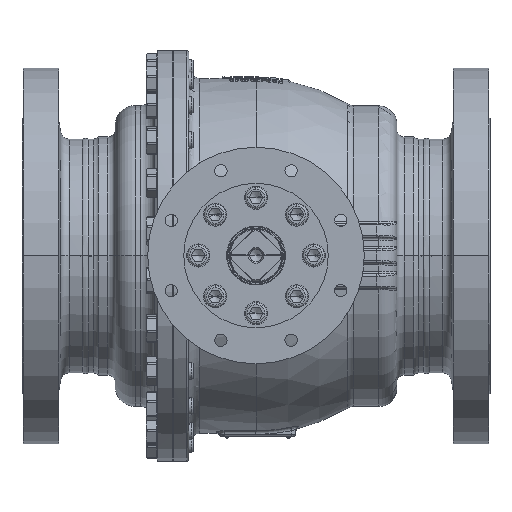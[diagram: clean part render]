
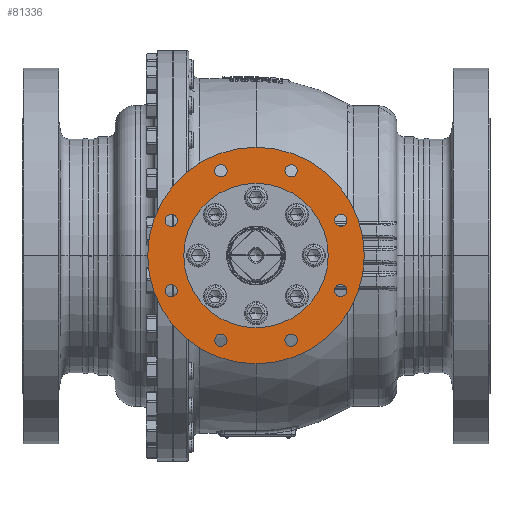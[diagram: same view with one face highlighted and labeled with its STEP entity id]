
A CAD part, top view. The second image highlights one B-rep face of the part: STEP entity #81336.
In plain terms, the highlighted planar face has unit normal (0, 0, 1).
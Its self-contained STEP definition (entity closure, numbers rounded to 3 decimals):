
#11239=CARTESIAN_POINT('',(0.,0.,376.));
#11240=DIRECTION('',(0.,0.,1.));
#11241=DIRECTION('',(0.,1.,0.));
#11242=AXIS2_PLACEMENT_3D('',#11239,#11240,#11241);
#11244=CARTESIAN_POINT('',(0.,0.,376.));
#11245=DIRECTION('',(0.,0.,-1.));
#11246=DIRECTION('',(0.,1.,0.));
#11247=AXIS2_PLACEMENT_3D('',#11244,#11245,#11246);
#11249=CARTESIAN_POINT('',(-48.601,-117.333,376.));
#11250=DIRECTION('',(0.,0.,-1.));
#11251=DIRECTION('',(0.,-1.,0.));
#11252=AXIS2_PLACEMENT_3D('',#11249,#11250,#11251);
#11254=CARTESIAN_POINT('',(-48.601,-117.333,376.));
#11255=DIRECTION('',(0.,0.,-1.));
#11256=DIRECTION('',(0.,1.,0.));
#11257=AXIS2_PLACEMENT_3D('',#11254,#11255,#11256);
#11259=CARTESIAN_POINT('',(-117.333,-48.601,376.));
#11260=DIRECTION('',(0.,0.,-1.));
#11261=DIRECTION('',(-0.707,-0.707,0.));
#11262=AXIS2_PLACEMENT_3D('',#11259,#11260,#11261);
#11264=CARTESIAN_POINT('',(-117.333,-48.601,376.));
#11265=DIRECTION('',(0.,0.,-1.));
#11266=DIRECTION('',(0.707,0.707,0.));
#11267=AXIS2_PLACEMENT_3D('',#11264,#11265,#11266);
#11269=CARTESIAN_POINT('',(-117.333,48.601,376.));
#11270=DIRECTION('',(0.,0.,-1.));
#11271=DIRECTION('',(-1.,0.,0.));
#11272=AXIS2_PLACEMENT_3D('',#11269,#11270,#11271);
#11274=CARTESIAN_POINT('',(-117.333,48.601,376.));
#11275=DIRECTION('',(0.,0.,-1.));
#11276=DIRECTION('',(1.,0.,0.));
#11277=AXIS2_PLACEMENT_3D('',#11274,#11275,#11276);
#11279=CARTESIAN_POINT('',(-48.601,117.333,376.));
#11280=DIRECTION('',(0.,0.,-1.));
#11281=DIRECTION('',(-0.707,0.707,0.));
#11282=AXIS2_PLACEMENT_3D('',#11279,#11280,#11281);
#11284=CARTESIAN_POINT('',(-48.601,117.333,376.));
#11285=DIRECTION('',(0.,0.,-1.));
#11286=DIRECTION('',(0.707,-0.707,0.));
#11287=AXIS2_PLACEMENT_3D('',#11284,#11285,#11286);
#11289=CARTESIAN_POINT('',(48.601,117.333,376.));
#11290=DIRECTION('',(0.,0.,-1.));
#11291=DIRECTION('',(0.,1.,0.));
#11292=AXIS2_PLACEMENT_3D('',#11289,#11290,#11291);
#11294=CARTESIAN_POINT('',(48.601,117.333,376.));
#11295=DIRECTION('',(0.,0.,-1.));
#11296=DIRECTION('',(0.,-1.,0.));
#11297=AXIS2_PLACEMENT_3D('',#11294,#11295,#11296);
#11299=CARTESIAN_POINT('',(117.333,48.601,376.));
#11300=DIRECTION('',(0.,0.,-1.));
#11301=DIRECTION('',(0.707,0.707,0.));
#11302=AXIS2_PLACEMENT_3D('',#11299,#11300,#11301);
#11304=CARTESIAN_POINT('',(117.333,48.601,376.));
#11305=DIRECTION('',(0.,0.,-1.));
#11306=DIRECTION('',(-0.707,-0.707,0.));
#11307=AXIS2_PLACEMENT_3D('',#11304,#11305,#11306);
#11309=CARTESIAN_POINT('',(117.333,-48.601,376.));
#11310=DIRECTION('',(0.,0.,-1.));
#11311=DIRECTION('',(1.,0.,0.));
#11312=AXIS2_PLACEMENT_3D('',#11309,#11310,#11311);
#11314=CARTESIAN_POINT('',(117.333,-48.601,376.));
#11315=DIRECTION('',(0.,0.,-1.));
#11316=DIRECTION('',(-1.,0.,0.));
#11317=AXIS2_PLACEMENT_3D('',#11314,#11315,#11316);
#11319=CARTESIAN_POINT('',(48.601,-117.333,376.));
#11320=DIRECTION('',(0.,0.,-1.));
#11321=DIRECTION('',(0.707,-0.707,0.));
#11322=AXIS2_PLACEMENT_3D('',#11319,#11320,#11321);
#11324=CARTESIAN_POINT('',(48.601,-117.333,376.));
#11325=DIRECTION('',(0.,0.,-1.));
#11326=DIRECTION('',(-0.707,0.707,0.));
#11327=AXIS2_PLACEMENT_3D('',#11324,#11325,#11326);
#11333=CARTESIAN_POINT('',(0.,0.,376.));
#11334=DIRECTION('',(0.,0.,-1.));
#11335=DIRECTION('',(0.,1.,0.));
#11336=AXIS2_PLACEMENT_3D('',#11333,#11334,#11335);
#11342=CARTESIAN_POINT('',(0.,0.,376.));
#11343=DIRECTION('',(0.,0.,1.));
#11344=DIRECTION('',(0.,1.,0.));
#11345=AXIS2_PLACEMENT_3D('',#11342,#11343,#11344);
#62637=CARTESIAN_POINT('',(0.,100.,376.));
#62639=VERTEX_POINT('',#62637);
#62641=CARTESIAN_POINT('',(0.,-100.,376.));
#62643=VERTEX_POINT('',#62641);
#62713=CARTESIAN_POINT('',(-48.601,-125.833,376.));
#62714=CARTESIAN_POINT('',(-48.601,-108.833,376.));
#62715=VERTEX_POINT('',#62713);
#62716=VERTEX_POINT('',#62714);
#62719=CARTESIAN_POINT('',(-123.343,-54.611,376.));
#62720=CARTESIAN_POINT('',(-111.322,-42.59,376.));
#62721=VERTEX_POINT('',#62719);
#62722=VERTEX_POINT('',#62720);
#62725=CARTESIAN_POINT('',(-125.833,48.601,376.));
#62726=CARTESIAN_POINT('',(-108.833,48.601,376.));
#62727=VERTEX_POINT('',#62725);
#62728=VERTEX_POINT('',#62726);
#62731=CARTESIAN_POINT('',(-54.611,123.343,376.));
#62732=CARTESIAN_POINT('',(-42.59,111.322,376.));
#62733=VERTEX_POINT('',#62731);
#62734=VERTEX_POINT('',#62732);
#62746=CARTESIAN_POINT('',(0.,150.,376.));
#62748=VERTEX_POINT('',#62746);
#62750=CARTESIAN_POINT('',(0.,-150.,376.));
#62752=VERTEX_POINT('',#62750);
#62761=CARTESIAN_POINT('',(48.601,125.833,376.));
#62762=CARTESIAN_POINT('',(48.601,108.833,376.));
#62763=VERTEX_POINT('',#62761);
#62764=VERTEX_POINT('',#62762);
#62769=CARTESIAN_POINT('',(123.343,54.611,376.));
#62770=CARTESIAN_POINT('',(111.322,42.59,376.));
#62771=VERTEX_POINT('',#62769);
#62772=VERTEX_POINT('',#62770);
#62777=CARTESIAN_POINT('',(125.833,-48.601,376.));
#62778=CARTESIAN_POINT('',(108.833,-48.601,376.));
#62779=VERTEX_POINT('',#62777);
#62780=VERTEX_POINT('',#62778);
#62785=CARTESIAN_POINT('',(54.611,-123.343,376.));
#62786=CARTESIAN_POINT('',(42.59,-111.322,376.));
#62787=VERTEX_POINT('',#62785);
#62788=VERTEX_POINT('',#62786);
#81273=CARTESIAN_POINT('',(0.,0.,376.));
#81274=DIRECTION('',(0.,0.,1.));
#81275=DIRECTION('',(0.,1.,0.));
#81276=AXIS2_PLACEMENT_3D('',#81273,#81274,#81275);
#81277=PLANE('',#81276);
#81278=ORIENTED_EDGE('',*,*,#81266,.F.);
#81279=ORIENTED_EDGE('',*,*,#81255,.T.);
#81280=EDGE_LOOP('',(#81278,#81279));
#81281=FACE_OUTER_BOUND('',#81280,.F.);
#81283=ORIENTED_EDGE('',*,*,#81282,.F.);
#81285=ORIENTED_EDGE('',*,*,#81284,.T.);
#81286=EDGE_LOOP('',(#81283,#81285));
#81287=FACE_BOUND('',#81286,.F.);
#81289=ORIENTED_EDGE('',*,*,#81288,.F.);
#81291=ORIENTED_EDGE('',*,*,#81290,.F.);
#81292=EDGE_LOOP('',(#81289,#81291));
#81293=FACE_BOUND('',#81292,.F.);
#81295=ORIENTED_EDGE('',*,*,#81294,.F.);
#81297=ORIENTED_EDGE('',*,*,#81296,.F.);
#81298=EDGE_LOOP('',(#81295,#81297));
#81299=FACE_BOUND('',#81298,.F.);
#81301=ORIENTED_EDGE('',*,*,#81300,.F.);
#81303=ORIENTED_EDGE('',*,*,#81302,.F.);
#81304=EDGE_LOOP('',(#81301,#81303));
#81305=FACE_BOUND('',#81304,.F.);
#81307=ORIENTED_EDGE('',*,*,#81306,.F.);
#81309=ORIENTED_EDGE('',*,*,#81308,.F.);
#81310=EDGE_LOOP('',(#81307,#81309));
#81311=FACE_BOUND('',#81310,.F.);
#81313=ORIENTED_EDGE('',*,*,#81312,.F.);
#81315=ORIENTED_EDGE('',*,*,#81314,.F.);
#81316=EDGE_LOOP('',(#81313,#81315));
#81317=FACE_BOUND('',#81316,.F.);
#81319=ORIENTED_EDGE('',*,*,#81318,.F.);
#81321=ORIENTED_EDGE('',*,*,#81320,.F.);
#81322=EDGE_LOOP('',(#81319,#81321));
#81323=FACE_BOUND('',#81322,.F.);
#81325=ORIENTED_EDGE('',*,*,#81324,.F.);
#81327=ORIENTED_EDGE('',*,*,#81326,.F.);
#81328=EDGE_LOOP('',(#81325,#81327));
#81329=FACE_BOUND('',#81328,.F.);
#81331=ORIENTED_EDGE('',*,*,#81330,.F.);
#81333=ORIENTED_EDGE('',*,*,#81332,.F.);
#81334=EDGE_LOOP('',(#81331,#81333));
#81335=FACE_BOUND('',#81334,.F.);
#81336=ADVANCED_FACE('',(#81281,#81287,#81293,#81299,#81305,#81311,#81317,
#81323,#81329,#81335),#81277,.T.);
#11243=CIRCLE('',#11242,150.);
#11248=CIRCLE('',#11247,150.);
#11253=CIRCLE('',#11252,8.5);
#11258=CIRCLE('',#11257,8.5);
#11263=CIRCLE('',#11262,8.5);
#11268=CIRCLE('',#11267,8.5);
#11273=CIRCLE('',#11272,8.5);
#11278=CIRCLE('',#11277,8.5);
#11283=CIRCLE('',#11282,8.5);
#11288=CIRCLE('',#11287,8.5);
#11293=CIRCLE('',#11292,8.5);
#11298=CIRCLE('',#11297,8.5);
#11303=CIRCLE('',#11302,8.5);
#11308=CIRCLE('',#11307,8.5);
#11313=CIRCLE('',#11312,8.5);
#11318=CIRCLE('',#11317,8.5);
#11323=CIRCLE('',#11322,8.5);
#11328=CIRCLE('',#11327,8.5);
#11337=CIRCLE('',#11336,100.);
#11346=CIRCLE('',#11345,100.);
#81255=EDGE_CURVE('',#62748,#62752,#11248,.T.);
#81266=EDGE_CURVE('',#62748,#62752,#11243,.T.);
#81282=EDGE_CURVE('',#62639,#62643,#11337,.T.);
#81284=EDGE_CURVE('',#62639,#62643,#11346,.T.);
#81288=EDGE_CURVE('',#62715,#62716,#11253,.T.);
#81290=EDGE_CURVE('',#62716,#62715,#11258,.T.);
#81294=EDGE_CURVE('',#62721,#62722,#11263,.T.);
#81296=EDGE_CURVE('',#62722,#62721,#11268,.T.);
#81300=EDGE_CURVE('',#62727,#62728,#11273,.T.);
#81302=EDGE_CURVE('',#62728,#62727,#11278,.T.);
#81306=EDGE_CURVE('',#62733,#62734,#11283,.T.);
#81308=EDGE_CURVE('',#62734,#62733,#11288,.T.);
#81312=EDGE_CURVE('',#62763,#62764,#11293,.T.);
#81314=EDGE_CURVE('',#62764,#62763,#11298,.T.);
#81318=EDGE_CURVE('',#62771,#62772,#11303,.T.);
#81320=EDGE_CURVE('',#62772,#62771,#11308,.T.);
#81324=EDGE_CURVE('',#62779,#62780,#11313,.T.);
#81326=EDGE_CURVE('',#62780,#62779,#11318,.T.);
#81330=EDGE_CURVE('',#62787,#62788,#11323,.T.);
#81332=EDGE_CURVE('',#62788,#62787,#11328,.T.);
